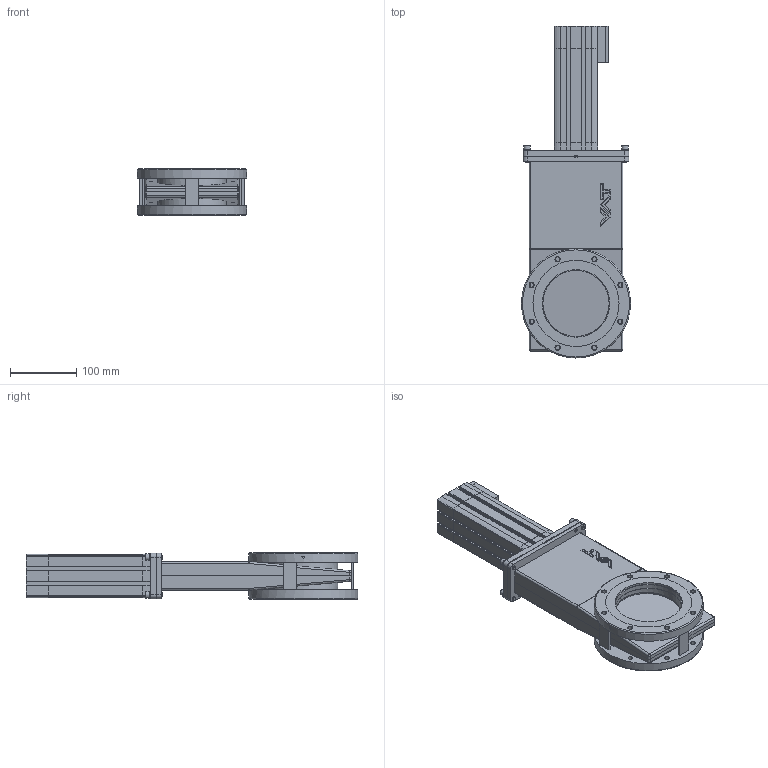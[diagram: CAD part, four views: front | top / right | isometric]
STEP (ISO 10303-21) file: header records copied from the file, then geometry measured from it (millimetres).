
FILE_DESCRIPTION(/* description */ (''),/* implementation_level */ '2;1');
FILE_NAME(/* name */ '1788763552_203.stp',/* time_stamp */ '2023-03-23T10:59:00+01:00',/* author */ (''),/* organization */ (''),/* preprocessor_version */ 'ST-DEVELOPER v18.1',/* originating_system */ 'SIEMENS PLM Software NX 1973',/* authorisation */ '');
FILE_SCHEMA (('AP203_CONFIGURATION_CONTROLLED_3D_DESIGN_OF_MECHANICAL_PARTS_AND_ASSEMBLIES_MIM_LF { 1 0 10303 403 2 1 2}'));
Length unit declared in the file: millimetre
Products named in the file (18): 251261.12_34875ID; 251260.4_34852ID; 251261.12_34898ID; 1134546; 343001.1; 1041281; 251257.9_34895ID; 251262.4; 251259.6_34868ID; 251259.6_34914ID; 251257.9_34910ID; 218189; n-6134-408; 250214.4; 1004825_NX-ARRAGMNTOpen ohne SV; 251258.9; 251256.28; 1095869
Assembly tree (26 placements, depth 4):
  1095869
    251256.28
      251257.9_34910ID
      251259.6_34914ID
      251259.6_34868ID
      251262.4  x3
      251258.9
        251261.12_34898ID
        251260.4_34852ID
        251261.12_34875ID
      251257.9_34895ID
    250214.4
    n-6134-408  x4
    218189  x4
    1004825_NX-ARRAGMNTOpen ohne SV
      1041281
      343001.1  x2
      1134546
Bounding box: 164.8 x 501.5 x 70 mm (x, y, z)
Volume: 1744785 mm3; surface area: 478419.8 mm2
Topology: 38 solids, 38 shells, 1810 faces, 4653 edges, 2989 vertices
Faces by surface type: plane 1080, cylinder 439, cone 139, extrusion 48, bspline 48, torus 40, sphere 16
Full cylindrical faces by diameter (mm): 2.46 x2, 2.5 x2, 3 x4, 4.96 x4, 5 x8, 5.1 x2, 5.22 x4, 5.5 x2, 6 x8, 6.4 x4, 6.5 x4, 6.8 x16, 10 x4, 11 x4, 25.345 x1, 100.1 x8, 102.1 x2, 104.1 x2, 104.6 x2, 164.8 x2
Entity records: 55671 total; most frequent: CARTESIAN_POINT 12106, ORIENTED_EDGE 8526, DIRECTION 8377, EDGE_CURVE 4263, VECTOR 2987, LINE 2939, VERTEX_POINT 2828, AXIS2_PLACEMENT_3D 2695
